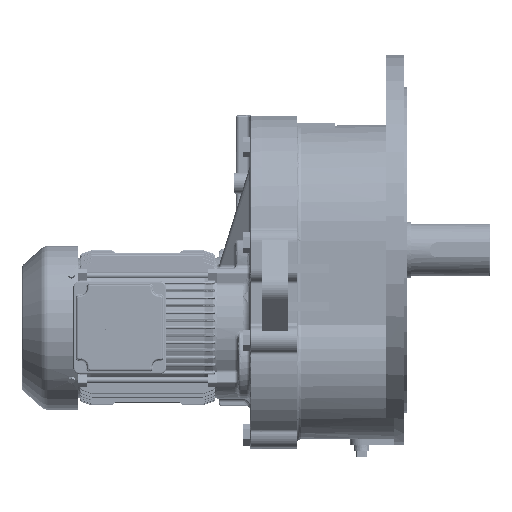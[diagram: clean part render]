
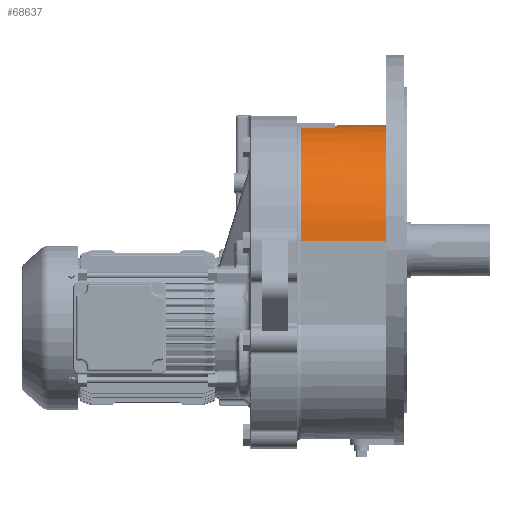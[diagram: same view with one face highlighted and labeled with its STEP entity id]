
A CAD part, top view. The second image highlights one B-rep face of the part: STEP entity #68637.
In plain terms, the highlighted cylindrical face has radius 154 mm (diameter 308 mm), a partial arc.
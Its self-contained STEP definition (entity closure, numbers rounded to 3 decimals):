
#14815 = EDGE_LOOP ( 'NONE', ( #367567, #305986, #380566, #454696, #91379, #270906, #263273, #409942 ) ) ;
#22872 = LINE ( 'NONE', #166992, #96481 ) ;
#32743 = EDGE_CURVE ( 'NONE', #315348, #359529, #467866, .T. ) ;
#33708 = VERTEX_POINT ( 'NONE', #171770 ) ;
#35584 = LINE ( 'NONE', #143675, #451164 ) ;
#39124 = VERTEX_POINT ( 'NONE', #459950 ) ;
#40653 = AXIS2_PLACEMENT_3D ( 'NONE', #223451, #257237, #320643 ) ;
#43730 = VERTEX_POINT ( 'NONE', #215559 ) ;
#48314 = CARTESIAN_POINT ( 'NONE',  ( 164.897, 74.469, 20.324 ) ) ;
#60822 = EDGE_CURVE ( 'NONE', #43730, #64228, #35584, .T. ) ;
#64228 = VERTEX_POINT ( 'NONE', #409792 ) ;
#68637 = ADVANCED_FACE ( 'NONE', ( #108555 ), #255176, .T. ) ;
#69022 = CARTESIAN_POINT ( 'NONE',  ( 288.897, 224.933, 53.133 ) ) ;
#71746 = DIRECTION ( 'NONE',  ( -1., 0., 0. ) ) ;
#88460 = CARTESIAN_POINT ( 'NONE',  ( 164.897, 74.784, -133.675 ) ) ;
#91379 = ORIENTED_EDGE ( 'NONE', *, *, #60822, .F. ) ;
#96481 = VECTOR ( 'NONE', #169359, 1000. ) ;
#99145 = VERTEX_POINT ( 'NONE', #352450 ) ;
#100807 = DIRECTION ( 'NONE',  ( 0., -0.002, 1. ) ) ;
#108555 = FACE_OUTER_BOUND ( 'NONE', #14815, .T. ) ;
#122099 = CARTESIAN_POINT ( 'NONE',  ( 288.897, 74.469, 20.324 ) ) ;
#141519 = AXIS2_PLACEMENT_3D ( 'NONE', #288364, #450937, #434880 ) ;
#143675 = CARTESIAN_POINT ( 'NONE',  ( 288.897, 74.153, 174.324 ) ) ;
#145627 = EDGE_CURVE ( 'NONE', #33708, #43730, #178809, .T. ) ;
#166992 = CARTESIAN_POINT ( 'NONE',  ( 288.897, 74.784, -133.675 ) ) ;
#169359 = DIRECTION ( 'NONE',  ( -1., 0., 0. ) ) ;
#171770 = CARTESIAN_POINT ( 'NONE',  ( 277.897, 74.784, -133.675 ) ) ;
#178809 = CIRCLE ( 'NONE', #40653, 154. ) ;
#179969 = CIRCLE ( 'NONE', #141519, 154. ) ;
#215284 = CARTESIAN_POINT ( 'NONE',  ( 164.897, 225.066, -11.867 ) ) ;
#215559 = CARTESIAN_POINT ( 'NONE',  ( 277.897, 74.153, 174.324 ) ) ;
#223451 = CARTESIAN_POINT ( 'NONE',  ( 277.897, 74.469, 20.324 ) ) ;
#243630 = CARTESIAN_POINT ( 'NONE',  ( 164.897, 224.933, 53.133 ) ) ;
#244233 = EDGE_CURVE ( 'NONE', #33708, #315348, #22872, .T. ) ;
#255176 = CYLINDRICAL_SURFACE ( 'NONE', #454747, 154. ) ;
#257237 = DIRECTION ( 'NONE',  ( 1., 0., 0. ) ) ;
#263273 = ORIENTED_EDGE ( 'NONE', *, *, #244233, .T. ) ;
#269124 = EDGE_CURVE ( 'NONE', #99145, #39124, #179969, .T. ) ;
#270906 = ORIENTED_EDGE ( 'NONE', *, *, #145627, .F. ) ;
#280254 = AXIS2_PLACEMENT_3D ( 'NONE', #48314, #341751, #328067 ) ;
#288364 = CARTESIAN_POINT ( 'NONE',  ( 209.897, 74.469, 20.324 ) ) ;
#291060 = EDGE_CURVE ( 'NONE', #359529, #99145, #324524, .T. ) ;
#291413 = EDGE_CURVE ( 'NONE', #39124, #432894, #295041, .T. ) ;
#295041 = LINE ( 'NONE', #69022, #397674 ) ;
#295459 = CIRCLE ( 'NONE', #280254, 154. ) ;
#305986 = ORIENTED_EDGE ( 'NONE', *, *, #269124, .T. ) ;
#309591 = EDGE_CURVE ( 'NONE', #432894, #64228, #295459, .T. ) ;
#315056 = DIRECTION ( 'NONE',  ( 1., 0., 0. ) ) ;
#315348 = VERTEX_POINT ( 'NONE', #88460 ) ;
#320643 = DIRECTION ( 'NONE',  ( 0., -0.002, 1. ) ) ;
#322096 = DIRECTION ( 'NONE',  ( 1., 0., 0. ) ) ;
#324524 = LINE ( 'NONE', #468776, #444439 ) ;
#328067 = DIRECTION ( 'NONE',  ( 0., -0.002, 1. ) ) ;
#329798 = DIRECTION ( 'NONE',  ( -1., 0., 0. ) ) ;
#341751 = DIRECTION ( 'NONE',  ( 1., 0., 0. ) ) ;
#352450 = CARTESIAN_POINT ( 'NONE',  ( 209.897, 225.066, -11.867 ) ) ;
#359529 = VERTEX_POINT ( 'NONE', #215284 ) ;
#360495 = AXIS2_PLACEMENT_3D ( 'NONE', #427828, #322096, #100807 ) ;
#367567 = ORIENTED_EDGE ( 'NONE', *, *, #291060, .T. ) ;
#380566 = ORIENTED_EDGE ( 'NONE', *, *, #291413, .T. ) ;
#397674 = VECTOR ( 'NONE', #405484, 1000. ) ;
#405484 = DIRECTION ( 'NONE',  ( -1., 0., 0. ) ) ;
#409792 = CARTESIAN_POINT ( 'NONE',  ( 164.897, 74.153, 174.324 ) ) ;
#409942 = ORIENTED_EDGE ( 'NONE', *, *, #32743, .T. ) ;
#427828 = CARTESIAN_POINT ( 'NONE',  ( 164.897, 74.469, 20.324 ) ) ;
#432894 = VERTEX_POINT ( 'NONE', #243630 ) ;
#434880 = DIRECTION ( 'NONE',  ( 0., -0.002, 1. ) ) ;
#444439 = VECTOR ( 'NONE', #315056, 1000. ) ;
#450937 = DIRECTION ( 'NONE',  ( 1., 0., 0. ) ) ;
#451164 = VECTOR ( 'NONE', #71746, 1000. ) ;
#454696 = ORIENTED_EDGE ( 'NONE', *, *, #309591, .T. ) ;
#454747 = AXIS2_PLACEMENT_3D ( 'NONE', #122099, #329798, #474091 ) ;
#459950 = CARTESIAN_POINT ( 'NONE',  ( 209.897, 224.933, 53.133 ) ) ;
#467866 = CIRCLE ( 'NONE', #360495, 154. ) ;
#468776 = CARTESIAN_POINT ( 'NONE',  ( 288.897, 225.066, -11.867 ) ) ;
#474091 = DIRECTION ( 'NONE',  ( 0., -0.002, 1. ) ) ;
